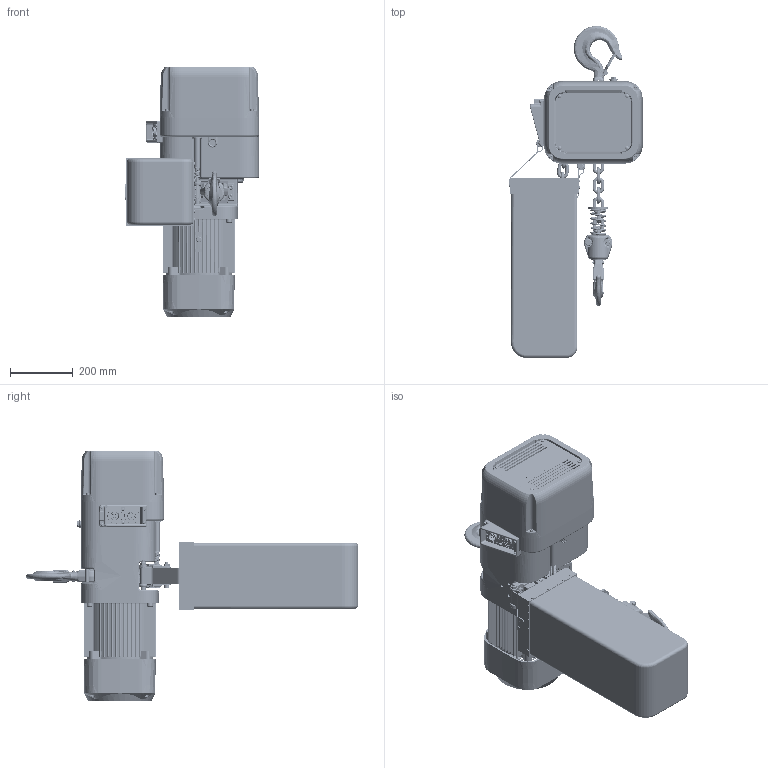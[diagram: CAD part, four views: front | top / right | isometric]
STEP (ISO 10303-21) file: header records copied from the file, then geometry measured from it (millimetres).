
FILE_DESCRIPTION (( 'STEP AP214' ), '1' );
FILE_NAME ('NER2025SD.STEP', '2026-08-04T12:44:32', ( '' ), ( '' ), 'SwSTEP 2.0', 'SolidWorks 2026', '' );
FILE_SCHEMA (( 'AUTOMOTIVE_DESIGN' ));
Length unit declared in the file: millimetre
Products named in the file (58): J1AP24001212; CF071030; ER2FS9338; J1WS011-20120_Rectangular section spring washer BS 4464 - 16 (Type B); ER1EM9053; ER2FS6122; ER2ES1002; LCER2025NP_12 Links; LCER2025NP; ER2EI2564; ER1ES1041; ER2FS1001; ER2CS9511; ER2FS5405; ER2FS9015; ER2FS9331; ER2BHM20I9A5; 9091255_9091255; ER2EI4511; ER2FS9101; 90912104_ 90912104; ER2FI2104; ER1FH9054; single coil rectangular section spring washer_bsi_9012711; ER2EI2523; BK2F2_for (N)ER2020L; ER2FS6121; ES127005S; ER2FS9001; ER2FS9103; ER2ES9107_ER2ES9107; J1BY9-1204030_B18.2.3.1M - Hex cap screw, M12 x 1.75 x 40 --40C; ER2FS1011; E3S112003; MS561010; NER2025SD; ER2CS9357; ER2FS9011; 90912116_90912116; Spring Lock Washer for M4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
Assembly tree (121 placements, depth 4):
  NER2025SD
    ER2FI2104
      ER2FI9104_ER2FI9104
      ER2EI9185_ER2EI9185
      J1AP24001212  x4
        Spring Lock Washer for M4
        pan cross head_am_B18.6.7M - M6 x 1.0 x 16 Type I Cross Recessed PHMS --16N
    ER2FS9103
    ER2FS9101
    ER2FS9105
    ER2ES9107_ER2ES9107
    ER2FS9331
    ER2FS9338
    ER2FS9337
    ER2CS9357
    single coil rectangular section spring washer_bsi_9012711  x4
    9091294_9091294  x4
    9091255_9091255  x4
    90912116_90912116  x4
    external tooth lock washer_am_PreviewCfg  x4
    9091254_9091254  x4
    ES127005S
    ER1BS9135
    E3S112003
    E3S111003
    ER2EI4511
      ER2CS9511
      MS561010  x8
      ER2EI2523
      ER2EI2564
      ES558003  x8
    ER1EM9051
    ER2FS6121
    ER2FS6122
    ER1EM9053
    ER1ES1041
    LCER2025NP_12 Links
      LCER2025NP  x12
    LCER2025 NP (SHAPED 2)
      LCER2025NP  x12
    ER2BHM20I9A5
    ER2FS1011
      ER2FS9011
      ER2ES1002
      ER2FS2015
        ER2FS9015  x2
        J1BY9-1204030_B18.2.3.1M - Hex cap screw, M12 x 1.75 x 40 --40C  x2
        J1WS011-20120_Rectangular section spring washer BS 4464 - 16 (Type B)  x2
        J1NA001-20120_B18.2.4.1M - Hex nut, Style 1,  M12 x 1.75 --D-C  x2
    ER1FH9054
    ER2BHM25I9A6  x2
    BK2F2_for (N)ER2020L
      ER2FS5405
      90912104_ 90912104
      ES066075  x2
      90912140_B18.3.1M - 10 x 1.5 x 85 Hex SHCS -- 85CHX
    ER2FS1001
      ER2FS9001
      CF071030
Bounding box: 427.14 x 1060 x 800.07 mm (x, y, z)
Volume: 50567744.6 mm3; surface area: 3389223.2 mm2
Topology: 130 solids, 134 shells, 6198 faces, 15766 edges, 9790 vertices
Faces by surface type: cylinder 2359, plane 2106, torus 649, bspline 469, cone 346, sphere 269
Entity records: 197893 total; most frequent: CARTESIAN_POINT 79076, DIRECTION 24318, ORIENTED_EDGE 23622, EDGE_CURVE 11811, AXIS2_PLACEMENT_3D 9445, VERTEX_POINT 7446, VECTOR 5428, LINE 5428
